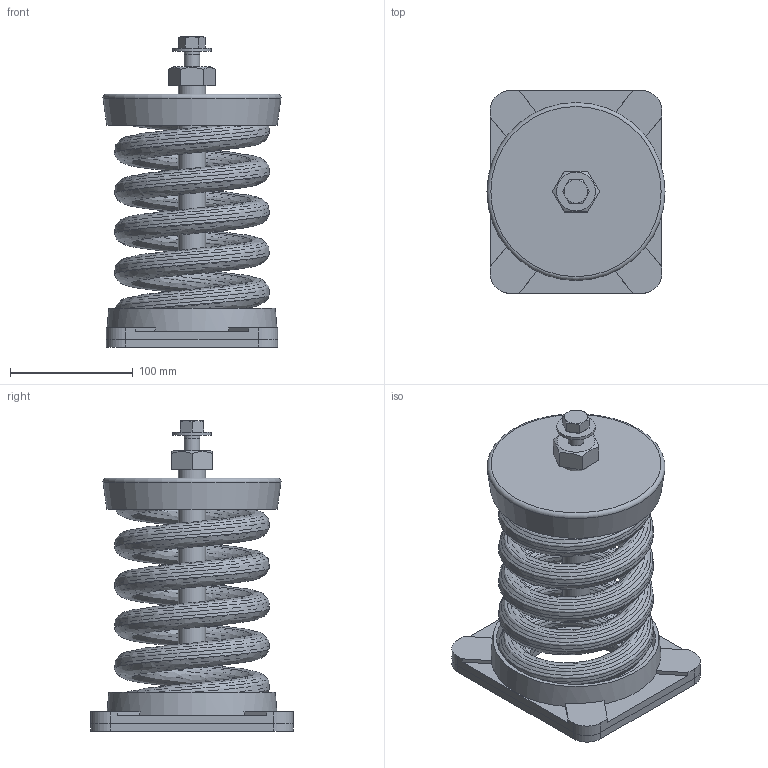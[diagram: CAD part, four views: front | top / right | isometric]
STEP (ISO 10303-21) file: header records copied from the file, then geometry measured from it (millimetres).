
FILE_DESCRIPTION(/* description */ (''),/* implementation_level */ '2;1');
FILE_NAME(/* name */ 'C:\001_Work\Designs\SLF ASSEMBLIES\SLF-111.stp',/* time_stamp */ '2016-01-10T13:40:45-05:00',/* author */ ('rramoutar'),/* organization */ ('Mason Industries Inc.'),/* preprocessor_version */ 'ST-DEVELOPER v15.6',/* originating_system */ 'Autodesk Inventor 2015',/* authorisation */ '');
FILE_SCHEMA (('CONFIG_CONTROL_DESIGN'));
Length unit declared in the file: inch
Products named in the file (1): SLF-111
Bounding box: 145.09 x 165.1 x 253.09 mm (x, y, z)
Volume: 629013 mm3; surface area: 407046.7 mm2
Topology: 7 solids, 7 shells, 156 faces, 383 edges, 250 vertices
Faces by surface type: plane 93, cylinder 25, bspline 22, cone 14, torus 2
Full cylindrical faces by diameter (mm): 12.7 x6, 13.487 x1, 19.05 x1, 19.447 x1, 22.225 x1, 31.75 x1, 76.2 x2, 129.381 x2
Entity records: 14679 total; most frequent: CARTESIAN_POINT 11106, ORIENTED_EDGE 702, DIRECTION 628, EDGE_CURVE 351, VERTEX_POINT 243, AXIS2_PLACEMENT_3D 232, EDGE_LOOP 200, LINE 164
